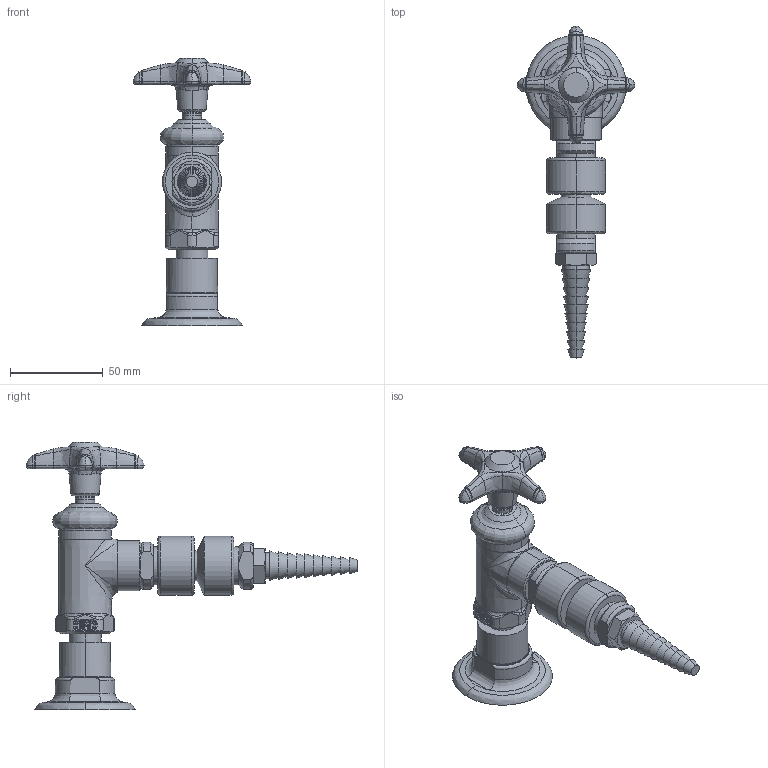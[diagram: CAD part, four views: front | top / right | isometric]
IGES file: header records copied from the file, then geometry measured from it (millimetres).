
Start section:  PTC IGES file: LWV2-C42-50.igs
Global section: file name: LWV2-C42-50.igs; native system: Creo Parametric by PTC Inc.; preprocessor: 2014500; author: usch_engrender; organization: Unknown; date: 20151117.120500; units: inch
Bounding box: 63.42 x 178.42 x 143.82 mm (x, y, z)
Volume: 143791.9 mm3; surface area: 34169.2 mm2
Topology: 1 solids, 4 shells, 545 faces, 1260 edges, 750 vertices
Faces by surface type: bspline 291, revolution 254
